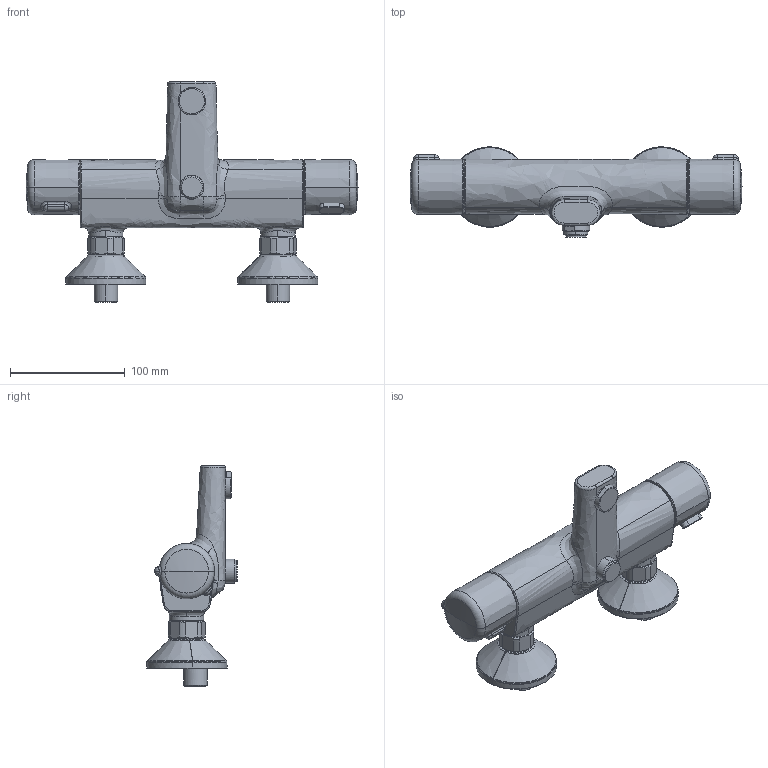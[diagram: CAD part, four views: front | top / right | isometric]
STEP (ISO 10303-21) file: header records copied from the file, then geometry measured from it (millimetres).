
FILE_DESCRIPTION (( 'STEP AP203' ), '1' );
FILE_NAME ('7462U(2016)+58162171(2016).STEP', '2017-05-05T12:03:44', ( '' ), ( '' ), 'SwSTEP 2.0', 'SolidWorks 2016', '' );
FILE_SCHEMA (( 'CONFIG_CONTROL_DESIGN' ));
Length unit declared in the file: millimetre
Products named in the file (1): 7462U(2016)+58162171(2016)
Bounding box: 289.57 x 78.78 x 192.42 mm (x, y, z)
Volume: 804199.8 mm3; surface area: 99587.6 mm2
Topology: 1 solids, 1 shells, 263 faces, 621 edges, 379 vertices
Faces by surface type: bspline 67, cone 60, cylinder 54, plane 50, torus 18, sphere 14
Entity records: 19013 total; most frequent: CARTESIAN_POINT 13488, ORIENTED_EDGE 1234, DIRECTION 989, EDGE_CURVE 617, AXIS2_PLACEMENT_3D 439, VERTEX_POINT 377, EDGE_LOOP 284, FACE_OUTER_BOUND 263
